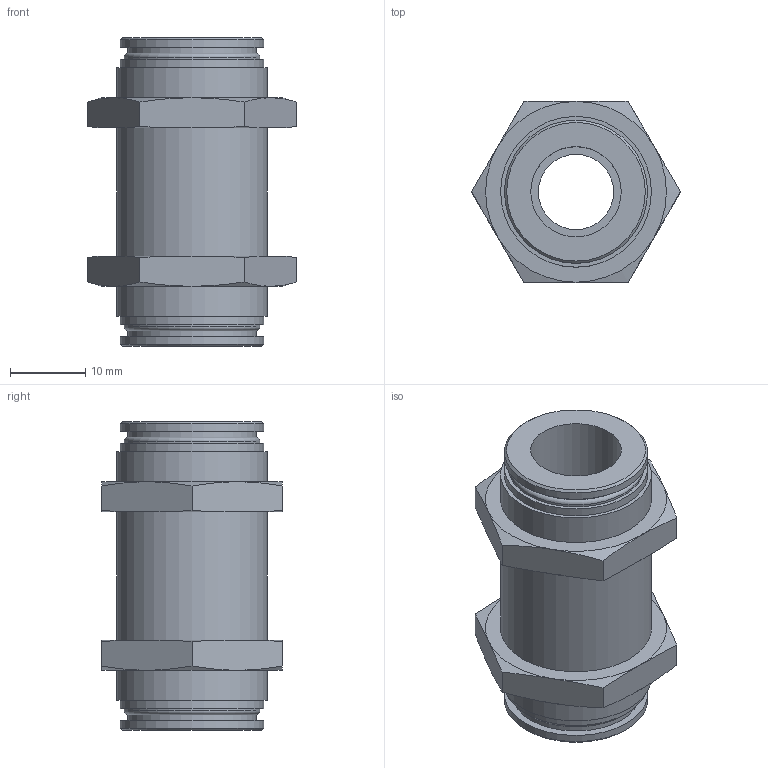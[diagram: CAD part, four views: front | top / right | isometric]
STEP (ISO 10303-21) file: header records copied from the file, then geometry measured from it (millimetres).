
FILE_DESCRIPTION(/* description */ (''),/* implementation_level */ '2;1');
FILE_NAME(/* name */ 'LXH13 1212 00.stp',/* time_stamp */ '2026-04-20T19:58:37+02:00',/* author */ ('freju'),/* organization */ (''),/* preprocessor_version */ 'ST-DEVELOPER v20.1',/* originating_system */ 'Autodesk Inventor 2026',/* authorisation */ '');
FILE_SCHEMA (('AUTOMOTIVE_DESIGN { 1 0 10303 214 3 1 1 }'));
Length unit declared in the file: millimetre
Products named in the file (1): LXH13 1212 00
Bounding box: 27.71 x 24 x 41 mm (x, y, z)
Volume: 9396.6 mm3; surface area: 5580.3 mm2
Topology: 1 solids, 1 shells, 68 faces, 138 edges, 84 vertices
Faces by surface type: cone 26, plane 26, cylinder 14, torus 2
Full cylindrical faces by diameter (mm): 10 x1, 12 x2, 17 x2, 18 x2, 19 x4, 20 x3
Entity records: 1771 total; most frequent: CARTESIAN_POINT 387, DIRECTION 290, ORIENTED_EDGE 276, EDGE_CURVE 138, AXIS2_PLACEMENT_3D 131, VERTEX_POINT 84, EDGE_LOOP 82, FACE_OUTER_BOUND 68
